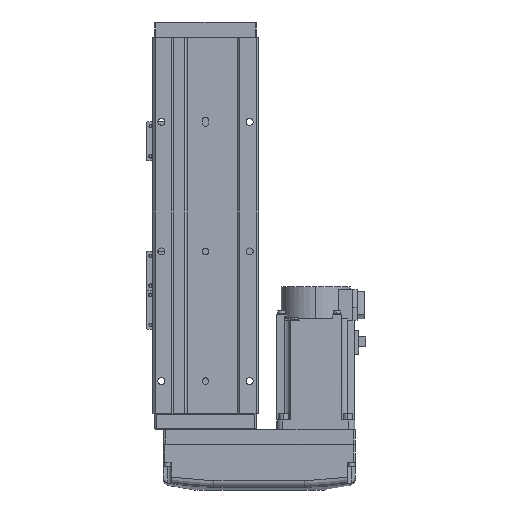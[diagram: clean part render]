
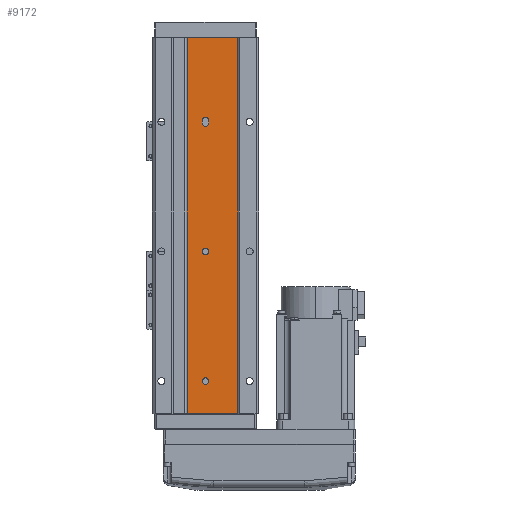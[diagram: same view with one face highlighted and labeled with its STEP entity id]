
A CAD part, front view. The second image highlights one B-rep face of the part: STEP entity #9172.
In plain terms, the highlighted planar face has unit normal (0, -1, 0).
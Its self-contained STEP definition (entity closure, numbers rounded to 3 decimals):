
#457 = ORIENTED_EDGE ( 'NONE', *, *, #7879, .T. ) ;
#518 = CIRCLE ( 'NONE', #23290, 2.5 ) ;
#1060 = ORIENTED_EDGE ( 'NONE', *, *, #17036, .F. ) ;
#1420 = DIRECTION ( 'NONE',  ( 1., 0., 0. ) ) ;
#2343 = DIRECTION ( 'NONE',  ( 0., 0., -1. ) ) ;
#2360 = CIRCLE ( 'NONE', #25120, 2.5 ) ;
#2690 = LINE ( 'NONE', #15097, #27215 ) ;
#3113 = VERTEX_POINT ( 'NONE', #24575 ) ;
#3182 = DIRECTION ( 'NONE',  ( 0., -1., 0. ) ) ;
#3689 = CARTESIAN_POINT ( 'NONE',  ( 14., 1., -145. ) ) ;
#3967 = EDGE_LOOP ( 'NONE', ( #38143, #6826 ) ) ;
#4030 = CARTESIAN_POINT ( 'NONE',  ( 0., 1., -81. ) ) ;
#4270 = DIRECTION ( 'NONE',  ( 0., 0., -1. ) ) ;
#4376 = VERTEX_POINT ( 'NONE', #29945 ) ;
#4749 = CARTESIAN_POINT ( 'NONE',  ( 0., 1., 20. ) ) ;
#6141 = EDGE_CURVE ( 'NONE', #15759, #22549, #27989, .T. ) ;
#6826 = ORIENTED_EDGE ( 'NONE', *, *, #37892, .F. ) ;
#7179 = ORIENTED_EDGE ( 'NONE', *, *, #15033, .F. ) ;
#7686 = CIRCLE ( 'NONE', #30435, 2.5 ) ;
#7879 = EDGE_CURVE ( 'NONE', #4376, #33859, #2690, .T. ) ;
#8267 = EDGE_CURVE ( 'NONE', #15161, #30311, #16825, .T. ) ;
#9172 = ADVANCED_FACE ( 'NONE', ( #15307, #27729, #40157, #12249 ), #24686, .F. ) ;
#9197 = DIRECTION ( 'NONE',  ( 0., 1., 0. ) ) ;
#9434 = CARTESIAN_POINT ( 'NONE',  ( 0., 1., 22.5 ) ) ;
#9608 = CARTESIAN_POINT ( 'NONE',  ( 0., 1., 120. ) ) ;
#10445 = AXIS2_PLACEMENT_3D ( 'NONE', #27247, #39671, #11767 ) ;
#10592 = CARTESIAN_POINT ( 'NONE',  ( 2.5, 1., -81. ) ) ;
#11263 = ORIENTED_EDGE ( 'NONE', *, *, #30464, .T. ) ;
#11312 = DIRECTION ( 'NONE',  ( 1., 0., 0. ) ) ;
#11405 = CARTESIAN_POINT ( 'NONE',  ( 0., 1., 122.5 ) ) ;
#11591 = LINE ( 'NONE', #24021, #24700 ) ;
#11609 = VERTEX_POINT ( 'NONE', #23632 ) ;
#11767 = DIRECTION ( 'NONE',  ( 0., 0., -1. ) ) ;
#12249 = FACE_OUTER_BOUND ( 'NONE', #25548, .T. ) ;
#12536 = CARTESIAN_POINT ( 'NONE',  ( 0., 1., 120. ) ) ;
#12824 = VECTOR ( 'NONE', #2343, 1000. ) ;
#12867 = VERTEX_POINT ( 'NONE', #14462 ) ;
#13753 = LINE ( 'NONE', #26175, #36994 ) ;
#14462 = CARTESIAN_POINT ( 'NONE',  ( 0., 1., -83.5 ) ) ;
#15033 = EDGE_CURVE ( 'NONE', #22549, #11609, #17806, .T. ) ;
#15097 = CARTESIAN_POINT ( 'NONE',  ( -25., 1., 145. ) ) ;
#15127 = CIRCLE ( 'NONE', #37906, 2.5 ) ;
#15161 = VERTEX_POINT ( 'NONE', #38244 ) ;
#15307 = FACE_BOUND ( 'NONE', #16811, .T. ) ;
#15402 = VERTEX_POINT ( 'NONE', #9434 ) ;
#15449 = LINE ( 'NONE', #27875, #38799 ) ;
#15596 = DIRECTION ( 'NONE',  ( 0., 0., -1. ) ) ;
#15759 = VERTEX_POINT ( 'NONE', #24265 ) ;
#16436 = DIRECTION ( 'NONE',  ( 0., -1., 0. ) ) ;
#16537 = EDGE_CURVE ( 'NONE', #11609, #12867, #7686, .T. ) ;
#16811 = EDGE_LOOP ( 'NONE', ( #7179, #35891, #1060, #39985, #30613 ) ) ;
#16825 = CIRCLE ( 'NONE', #39601, 2.5 ) ;
#16889 = LINE ( 'NONE', #29320, #19112 ) ;
#17003 = ORIENTED_EDGE ( 'NONE', *, *, #27602, .F. ) ;
#17036 = EDGE_CURVE ( 'NONE', #36982, #15759, #13753, .T. ) ;
#17152 = DIRECTION ( 'NONE',  ( 0., -1., 0. ) ) ;
#17806 = LINE ( 'NONE', #30235, #12824 ) ;
#18745 = CARTESIAN_POINT ( 'NONE',  ( 0., 1., 17.5 ) ) ;
#19112 = VECTOR ( 'NONE', #1420, 1000. ) ;
#19140 = ORIENTED_EDGE ( 'NONE', *, *, #35333, .F. ) ;
#19537 = EDGE_CURVE ( 'NONE', #12867, #36982, #15127, .T. ) ;
#19743 = CARTESIAN_POINT ( 'NONE',  ( 0., 1., 20. ) ) ;
#20486 = VERTEX_POINT ( 'NONE', #3689 ) ;
#21623 = DIRECTION ( 'NONE',  ( 0., 0., 1. ) ) ;
#22032 = DIRECTION ( 'NONE',  ( 0., -1., 0. ) ) ;
#22549 = VERTEX_POINT ( 'NONE', #40262 ) ;
#23290 = AXIS2_PLACEMENT_3D ( 'NONE', #19743, #32169, #4270 ) ;
#23378 = EDGE_CURVE ( 'NONE', #30311, #15161, #33394, .T. ) ;
#23632 = CARTESIAN_POINT ( 'NONE',  ( -2.5, 1., -81. ) ) ;
#24021 = CARTESIAN_POINT ( 'NONE',  ( 14., 1., 145. ) ) ;
#24265 = CARTESIAN_POINT ( 'NONE',  ( 2.5, 1., -79. ) ) ;
#24575 = CARTESIAN_POINT ( 'NONE',  ( 14., 1., 145. ) ) ;
#24686 = PLANE ( 'NONE',  #27680 ) ;
#24700 = VECTOR ( 'NONE', #36435, 1000. ) ;
#24976 = DIRECTION ( 'NONE',  ( 0., -1., 0. ) ) ;
#25120 = AXIS2_PLACEMENT_3D ( 'NONE', #4749, #17152, #29588 ) ;
#25350 = ORIENTED_EDGE ( 'NONE', *, *, #23378, .F. ) ;
#25548 = EDGE_LOOP ( 'NONE', ( #11263, #19140, #17003, #457 ) ) ;
#26175 = CARTESIAN_POINT ( 'NONE',  ( 2.5, 1., -79. ) ) ;
#27215 = VECTOR ( 'NONE', #27518, 1000. ) ;
#27247 = CARTESIAN_POINT ( 'NONE',  ( 0., 1., -79. ) ) ;
#27518 = DIRECTION ( 'NONE',  ( 0., 0., -1. ) ) ;
#27602 = EDGE_CURVE ( 'NONE', #4376, #3113, #16889, .T. ) ;
#27680 = AXIS2_PLACEMENT_3D ( 'NONE', #37111, #9197, #21623 ) ;
#27729 = FACE_BOUND ( 'NONE', #35551, .T. ) ;
#27875 = CARTESIAN_POINT ( 'NONE',  ( -25., 1., -145. ) ) ;
#27989 = CIRCLE ( 'NONE', #10445, 2.5 ) ;
#28876 = DIRECTION ( 'NONE',  ( 0., 0., -1. ) ) ;
#29267 = CARTESIAN_POINT ( 'NONE',  ( -25., 1., -145. ) ) ;
#29320 = CARTESIAN_POINT ( 'NONE',  ( -25., 1., 145. ) ) ;
#29588 = DIRECTION ( 'NONE',  ( 0., 0., -1. ) ) ;
#29945 = CARTESIAN_POINT ( 'NONE',  ( -25., 1., 145. ) ) ;
#30235 = CARTESIAN_POINT ( 'NONE',  ( -2.5, 1., -79. ) ) ;
#30311 = VERTEX_POINT ( 'NONE', #11405 ) ;
#30435 = AXIS2_PLACEMENT_3D ( 'NONE', #4030, #16436, #28876 ) ;
#30464 = EDGE_CURVE ( 'NONE', #33859, #20486, #15449, .T. ) ;
#30613 = ORIENTED_EDGE ( 'NONE', *, *, #16537, .F. ) ;
#30801 = ORIENTED_EDGE ( 'NONE', *, *, #8267, .F. ) ;
#31071 = CARTESIAN_POINT ( 'NONE',  ( 0., 1., -81. ) ) ;
#32167 = EDGE_CURVE ( 'NONE', #36802, #15402, #518, .T. ) ;
#32169 = DIRECTION ( 'NONE',  ( 0., -1., 0. ) ) ;
#33394 = CIRCLE ( 'NONE', #38614, 2.5 ) ;
#33859 = VERTEX_POINT ( 'NONE', #29267 ) ;
#34456 = DIRECTION ( 'NONE',  ( 0., 0., -1. ) ) ;
#35333 = EDGE_CURVE ( 'NONE', #3113, #20486, #11591, .T. ) ;
#35551 = EDGE_LOOP ( 'NONE', ( #30801, #25350 ) ) ;
#35891 = ORIENTED_EDGE ( 'NONE', *, *, #6141, .F. ) ;
#36435 = DIRECTION ( 'NONE',  ( 0., 0., -1. ) ) ;
#36802 = VERTEX_POINT ( 'NONE', #18745 ) ;
#36982 = VERTEX_POINT ( 'NONE', #10592 ) ;
#36994 = VECTOR ( 'NONE', #38604, 1000. ) ;
#37111 = CARTESIAN_POINT ( 'NONE',  ( -25., 1., 145. ) ) ;
#37403 = DIRECTION ( 'NONE',  ( 0., 0., -1. ) ) ;
#37892 = EDGE_CURVE ( 'NONE', #15402, #36802, #2360, .T. ) ;
#37906 = AXIS2_PLACEMENT_3D ( 'NONE', #31071, #3182, #15596 ) ;
#38143 = ORIENTED_EDGE ( 'NONE', *, *, #32167, .F. ) ;
#38244 = CARTESIAN_POINT ( 'NONE',  ( 0., 1., 117.5 ) ) ;
#38604 = DIRECTION ( 'NONE',  ( 0., 0., 1. ) ) ;
#38614 = AXIS2_PLACEMENT_3D ( 'NONE', #9608, #22032, #34456 ) ;
#38799 = VECTOR ( 'NONE', #11312, 1000. ) ;
#39601 = AXIS2_PLACEMENT_3D ( 'NONE', #12536, #24976, #37403 ) ;
#39671 = DIRECTION ( 'NONE',  ( 0., -1., 0. ) ) ;
#39985 = ORIENTED_EDGE ( 'NONE', *, *, #19537, .F. ) ;
#40157 = FACE_BOUND ( 'NONE', #3967, .T. ) ;
#40262 = CARTESIAN_POINT ( 'NONE',  ( -2.5, 1., -79. ) ) ;
